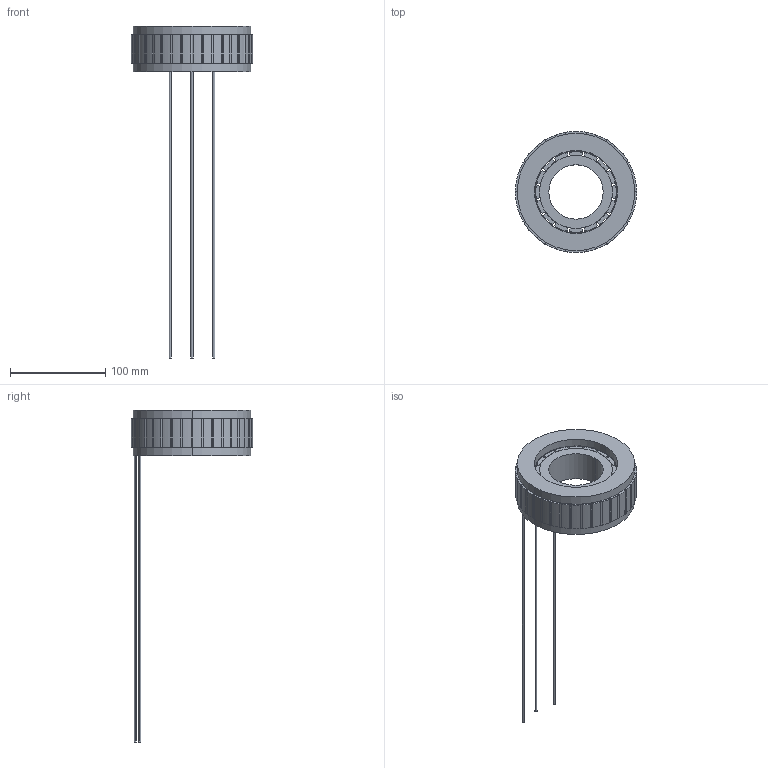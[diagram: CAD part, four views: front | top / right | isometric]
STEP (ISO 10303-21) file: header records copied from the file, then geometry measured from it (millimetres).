
FILE_DESCRIPTION (( 'STEP AP203' ), '1' );
FILE_NAME ('127婦蝶隅赽沺郋30.STEP', '2022-12-05T09:43:25', ( 'muse' ), ( 'muse' ), 'SwSTEP 2.0', 'SolidWorks 2022', '' );
FILE_SCHEMA (( 'CONFIG_CONTROL_DESIGN' ));
Length unit declared in the file: millimetre
Products named in the file (6): 127转子铁芯32; 127定子铁芯30; 127磁钢32; 127包胶定子铁芯30; 127包胶模30; 127线包30
Assembly tree (54 placements, depth 2):
  127包胶定子铁芯30
    127包胶模30  x18
    127定子铁芯30  x18
    127转子铁芯32
    127磁钢32  x16
    127线包30
Bounding box: 126.98 x 126.97 x 348 mm (x, y, z)
Volume: 346153 mm3; surface area: 203663.1 mm2
Topology: 55 solids, 55 shells, 1257 faces, 3468 edges, 2288 vertices
Faces by surface type: plane 829, cylinder 428
Entity records: 5133 total; most frequent: DIRECTION 633, CARTESIAN_POINT 560, ORIENTED_EDGE 490, EDGE_CURVE 245, AXIS2_PLACEMENT_3D 235, VECTOR 163, LINE 163, VERTEX_POINT 162
